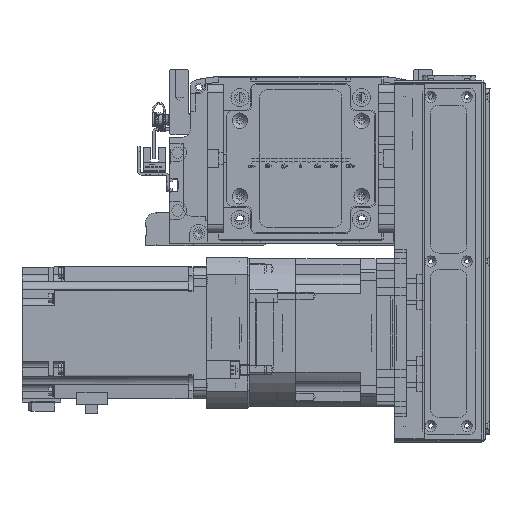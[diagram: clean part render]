
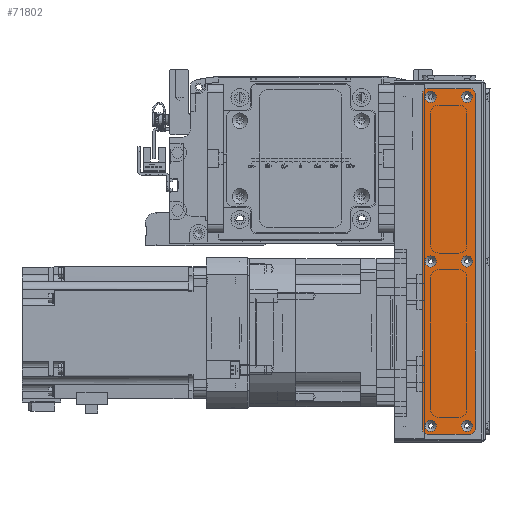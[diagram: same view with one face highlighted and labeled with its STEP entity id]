
A CAD part, front view. The second image highlights one B-rep face of the part: STEP entity #71802.
In plain terms, the highlighted planar face has unit normal (0, -1, 0).
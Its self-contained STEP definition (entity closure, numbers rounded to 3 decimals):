
#1956=FACE_BOUND('',#14981,.T.);
#1957=FACE_BOUND('',#14982,.T.);
#1958=FACE_BOUND('',#14983,.T.);
#1959=FACE_BOUND('',#14984,.T.);
#1960=FACE_BOUND('',#14985,.T.);
#1961=FACE_BOUND('',#14986,.T.);
#5592=PLANE('',#79448);
#10487=FACE_OUTER_BOUND('',#14980,.T.);
#14980=EDGE_LOOP('',(#67551,#67552,#67553,#67554,#67555,#67556,#67557,#67558));
#14981=EDGE_LOOP('',(#67559));
#14982=EDGE_LOOP('',(#67560));
#14983=EDGE_LOOP('',(#67561));
#14984=EDGE_LOOP('',(#67562));
#14985=EDGE_LOOP('',(#67563));
#14986=EDGE_LOOP('',(#67564));
#21589=LINE('',#123484,#28153);
#21590=LINE('',#123488,#28154);
#21591=LINE('',#123492,#28155);
#21592=LINE('',#123495,#28156);
#28153=VECTOR('',#99973,10.);
#28154=VECTOR('',#99976,10.);
#28155=VECTOR('',#99979,10.);
#28156=VECTOR('',#99982,10.);
#30927=CIRCLE('',#79416,3.45);
#30930=CIRCLE('',#79421,3.45);
#30933=CIRCLE('',#79426,3.45);
#30936=CIRCLE('',#79431,3.45);
#30939=CIRCLE('',#79436,3.45);
#30942=CIRCLE('',#79441,3.45);
#30945=CIRCLE('',#79446,3.);
#30947=CIRCLE('',#79449,3.);
#30948=CIRCLE('',#79450,3.);
#30949=CIRCLE('',#79451,3.);
#37552=VERTEX_POINT('',#123414);
#37555=VERTEX_POINT('',#123424);
#37558=VERTEX_POINT('',#123434);
#37561=VERTEX_POINT('',#123444);
#37564=VERTEX_POINT('',#123454);
#37567=VERTEX_POINT('',#123464);
#37570=VERTEX_POINT('',#123474);
#37571=VERTEX_POINT('',#123475);
#37574=VERTEX_POINT('',#123483);
#37575=VERTEX_POINT('',#123485);
#37576=VERTEX_POINT('',#123487);
#37577=VERTEX_POINT('',#123489);
#37578=VERTEX_POINT('',#123491);
#37579=VERTEX_POINT('',#123493);
#47549=EDGE_CURVE('',#37552,#37552,#30927,.T.);
#47554=EDGE_CURVE('',#37555,#37555,#30930,.T.);
#47559=EDGE_CURVE('',#37558,#37558,#30933,.T.);
#47564=EDGE_CURVE('',#37561,#37561,#30936,.T.);
#47569=EDGE_CURVE('',#37564,#37564,#30939,.T.);
#47574=EDGE_CURVE('',#37567,#37567,#30942,.T.);
#47579=EDGE_CURVE('',#37570,#37571,#30945,.T.);
#47583=EDGE_CURVE('',#37570,#37574,#21589,.T.);
#47584=EDGE_CURVE('',#37575,#37574,#30947,.T.);
#47585=EDGE_CURVE('',#37575,#37576,#21590,.T.);
#47586=EDGE_CURVE('',#37577,#37576,#30948,.T.);
#47587=EDGE_CURVE('',#37577,#37578,#21591,.T.);
#47588=EDGE_CURVE('',#37579,#37578,#30949,.T.);
#47589=EDGE_CURVE('',#37579,#37571,#21592,.T.);
#67551=ORIENTED_EDGE('',*,*,#47579,.F.);
#67552=ORIENTED_EDGE('',*,*,#47583,.T.);
#67553=ORIENTED_EDGE('',*,*,#47584,.F.);
#67554=ORIENTED_EDGE('',*,*,#47585,.T.);
#67555=ORIENTED_EDGE('',*,*,#47586,.F.);
#67556=ORIENTED_EDGE('',*,*,#47587,.T.);
#67557=ORIENTED_EDGE('',*,*,#47588,.F.);
#67558=ORIENTED_EDGE('',*,*,#47589,.T.);
#67559=ORIENTED_EDGE('',*,*,#47549,.T.);
#67560=ORIENTED_EDGE('',*,*,#47554,.T.);
#67561=ORIENTED_EDGE('',*,*,#47559,.T.);
#67562=ORIENTED_EDGE('',*,*,#47564,.T.);
#67563=ORIENTED_EDGE('',*,*,#47569,.T.);
#67564=ORIENTED_EDGE('',*,*,#47574,.T.);
#71802=ADVANCED_FACE('',(#10487,#1956,#1957,#1958,#1959,#1960,#1961),#5592,
 .T.);
#79416=AXIS2_PLACEMENT_3D('',#123415,#99893,#99894);
#79421=AXIS2_PLACEMENT_3D('',#123425,#99905,#99906);
#79426=AXIS2_PLACEMENT_3D('',#123435,#99917,#99918);
#79431=AXIS2_PLACEMENT_3D('',#123445,#99929,#99930);
#79436=AXIS2_PLACEMENT_3D('',#123455,#99941,#99942);
#79441=AXIS2_PLACEMENT_3D('',#123465,#99953,#99954);
#79446=AXIS2_PLACEMENT_3D('',#123476,#99965,#99966);
#79448=AXIS2_PLACEMENT_3D('',#123482,#99971,#99972);
#79449=AXIS2_PLACEMENT_3D('',#123486,#99974,#99975);
#79450=AXIS2_PLACEMENT_3D('',#123490,#99977,#99978);
#79451=AXIS2_PLACEMENT_3D('',#123494,#99980,#99981);
#99893=DIRECTION('center_axis',(0.,1.,0.));
#99894=DIRECTION('ref_axis',(1.,0.,0.));
#99905=DIRECTION('center_axis',(0.,1.,0.));
#99906=DIRECTION('ref_axis',(1.,0.,0.));
#99917=DIRECTION('center_axis',(0.,1.,0.));
#99918=DIRECTION('ref_axis',(1.,0.,0.));
#99929=DIRECTION('center_axis',(0.,1.,0.));
#99930=DIRECTION('ref_axis',(1.,0.,0.));
#99941=DIRECTION('center_axis',(0.,1.,0.));
#99942=DIRECTION('ref_axis',(1.,0.,0.));
#99953=DIRECTION('center_axis',(0.,1.,0.));
#99954=DIRECTION('ref_axis',(1.,0.,0.));
#99965=DIRECTION('center_axis',(0.,1.,0.));
#99966=DIRECTION('ref_axis',(-0.707,0.,0.707));
#99971=DIRECTION('center_axis',(0.,-1.,0.));
#99972=DIRECTION('ref_axis',(0.,0.,-1.));
#99973=DIRECTION('',(0.,0.,-1.));
#99974=DIRECTION('center_axis',(0.,1.,0.));
#99975=DIRECTION('ref_axis',(-0.707,0.,-0.707));
#99976=DIRECTION('',(1.,0.,0.));
#99977=DIRECTION('center_axis',(0.,1.,0.));
#99978=DIRECTION('ref_axis',(0.707,0.,-0.707));
#99979=DIRECTION('',(0.,0.,1.));
#99980=DIRECTION('center_axis',(0.,1.,0.));
#99981=DIRECTION('ref_axis',(0.707,0.,0.707));
#99982=DIRECTION('',(-1.,0.,0.));
#123414=CARTESIAN_POINT('',(96.55,-1.5,11.));
#123415=CARTESIAN_POINT('Origin',(100.,-1.5,11.));
#123424=CARTESIAN_POINT('',(-103.45,-1.5,-11.));
#123425=CARTESIAN_POINT('Origin',(-100.,-1.5,-11.));
#123434=CARTESIAN_POINT('',(-3.45,-1.5,11.));
#123435=CARTESIAN_POINT('Origin',(0.,-1.5,11.));
#123444=CARTESIAN_POINT('',(-3.45,-1.5,-11.));
#123445=CARTESIAN_POINT('Origin',(0.,-1.5,-11.));
#123454=CARTESIAN_POINT('',(-103.45,-1.5,11.));
#123455=CARTESIAN_POINT('Origin',(-100.,-1.5,11.));
#123464=CARTESIAN_POINT('',(96.55,-1.5,-11.));
#123465=CARTESIAN_POINT('Origin',(100.,-1.5,-11.));
#123474=CARTESIAN_POINT('',(-105.,-1.5,13.));
#123475=CARTESIAN_POINT('',(-102.,-1.5,16.));
#123476=CARTESIAN_POINT('Origin',(-102.,-1.5,13.));
#123482=CARTESIAN_POINT('Origin',(0.,-1.5,0.));
#123483=CARTESIAN_POINT('',(-105.,-1.5,-13.));
#123484=CARTESIAN_POINT('',(-105.,-1.5,16.));
#123485=CARTESIAN_POINT('',(-102.,-1.5,-16.));
#123486=CARTESIAN_POINT('Origin',(-102.,-1.5,-13.));
#123487=CARTESIAN_POINT('',(102.,-1.5,-16.));
#123488=CARTESIAN_POINT('',(-105.,-1.5,-16.));
#123489=CARTESIAN_POINT('',(105.,-1.5,-13.));
#123490=CARTESIAN_POINT('Origin',(102.,-1.5,-13.));
#123491=CARTESIAN_POINT('',(105.,-1.5,13.));
#123492=CARTESIAN_POINT('',(105.,-1.5,-16.));
#123493=CARTESIAN_POINT('',(102.,-1.5,16.));
#123494=CARTESIAN_POINT('Origin',(102.,-1.5,13.));
#123495=CARTESIAN_POINT('',(105.,-1.5,16.));
